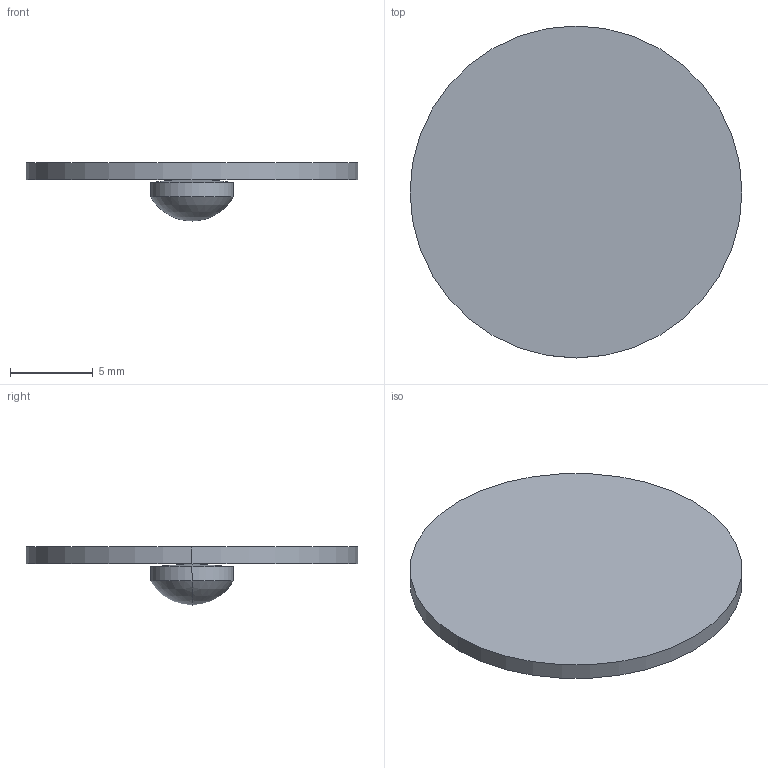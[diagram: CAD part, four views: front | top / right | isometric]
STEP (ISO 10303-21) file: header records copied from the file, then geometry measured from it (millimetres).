
FILE_DESCRIPTION(('STEP AP214'),'1');
FILE_NAME('LLU-3-5.STEP','2020-03-09T17:42:13',(' '),(' '),'Spatial InterOp 3D',' ',' ');
FILE_SCHEMA(('AUTOMOTIVE_DESIGN { 1 0 10303 214 1 1 1 1 }'));
Length unit declared in the file: millimetre
Products named in the file (1): 1
Bounding box: 20 x 20 x 3.5 mm (x, y, z)
Volume: 348.7 mm3; surface area: 750.6 mm2
Topology: 2 solids, 2 shells, 10 faces, 20 edges, 10 vertices
Faces by surface type: sphere 4, cylinder 4, plane 2
Entity records: 255 total; most frequent: DIRECTION 52, CARTESIAN_POINT 38, ORIENTED_EDGE 32, AXIS2_PLACEMENT_3D 24, EDGE_CURVE 16, CIRCLE 12, ADVANCED_FACE 10, FACE_OUTER_BOUND 10
